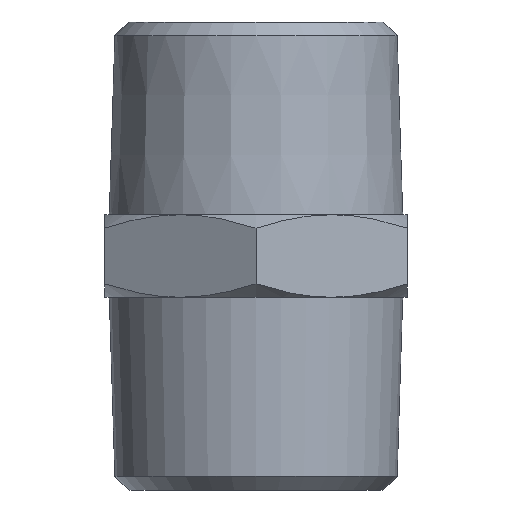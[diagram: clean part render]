
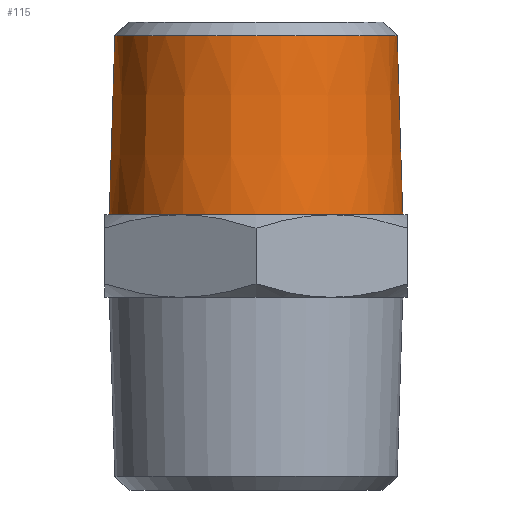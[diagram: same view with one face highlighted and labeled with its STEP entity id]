
A CAD part, left-side view. The second image highlights one B-rep face of the part: STEP entity #115.
In plain terms, the highlighted conical face has half-angle 1.79 degrees and reference radius 10.44 mm.
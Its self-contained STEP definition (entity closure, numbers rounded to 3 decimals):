
#73=CARTESIAN_POINT('',(0.,-10.252,16.));
#74=VERTEX_POINT('',#73);
#75=CARTESIAN_POINT('',(0.,0.,16.));
#76=DIRECTION('',(0.0,0.0,1.0));
#77=DIRECTION('',(0.0,1.0,0.0));
#78=AXIS2_PLACEMENT_3D('',#75,#76,#77);
#79=CIRCLE('',#78,10.252);
#80=EDGE_CURVE('',#74,#74,#79,.T.);
#96=CARTESIAN_POINT('',(0.0,0.,10.0));
#97=DIRECTION('',(0.0,0.,-1.0));
#98=DIRECTION('',(0.0,-1.0,0.0));
#99=AXIS2_PLACEMENT_3D('',#96,#97,#98);
#100=CONICAL_SURFACE('',#99,10.44,1.79);
#101=CARTESIAN_POINT('',(0.0,-10.659,3.));
#102=VERTEX_POINT('',#101);
#103=CARTESIAN_POINT('',(0.0,0.,3.));
#104=DIRECTION('',(0.0,0.0,-1.0));
#105=DIRECTION('',(0.0,-1.0,0.0));
#106=AXIS2_PLACEMENT_3D('',#103,#104,#105);
#107=CIRCLE('',#106,10.659);
#108=EDGE_CURVE('',#102,#102,#107,.T.);
#109=ORIENTED_EDGE('',*,*,#108,.F.);
#110=EDGE_LOOP('',(#109));
#111=FACE_OUTER_BOUND('',#110,.T.);
#112=ORIENTED_EDGE('',*,*,#80,.F.);
#113=EDGE_LOOP('',(#112));
#114=FACE_BOUND('',#113,.T.);
#115=ADVANCED_FACE('',(#111,#114),#100,.T.);
